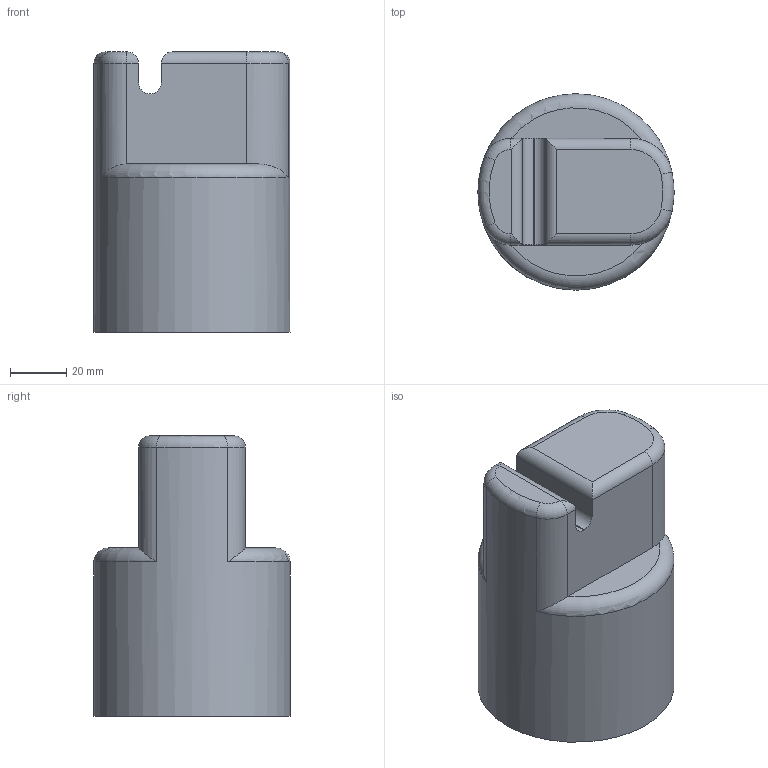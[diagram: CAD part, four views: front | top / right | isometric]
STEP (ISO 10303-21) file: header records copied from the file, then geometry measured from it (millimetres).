
FILE_DESCRIPTION(/* description */ (''),/* implementation_level */ '2;1');
FILE_NAME(/* name */ 'boom holder exploder.step',/* time_stamp */ '2026-09-30T16:27:02+02:00',/* author */ (''),/* organization */ (''),/* preprocessor_version */ 'ST-DEVELOPER v20.2',/* originating_system */ 'Autodesk Translation Framework v15.15.0.0',/* authorisation */ '');
FILE_SCHEMA (('AUTOMOTIVE_DESIGN { 1 0 10303 214 3 1 1 }'));
Length unit declared in the file: millimetre
Products named in the file (1): boom holder exploder
Bounding box: 70 x 70 x 100 mm (x, y, z)
Volume: 149464.7 mm3; surface area: 40375.9 mm2
Topology: 1 solids, 1 shells, 37 faces, 87 edges, 54 vertices
Faces by surface type: cylinder 15, plane 12, torus 10
Full cylindrical faces by diameter (mm): 16 x1, 62 x1, 70 x1
Entity records: 1140 total; most frequent: CARTESIAN_POINT 227, DIRECTION 203, ORIENTED_EDGE 174, EDGE_CURVE 87, AXIS2_PLACEMENT_3D 84, VERTEX_POINT 54, CIRCLE 42, EDGE_LOOP 39
